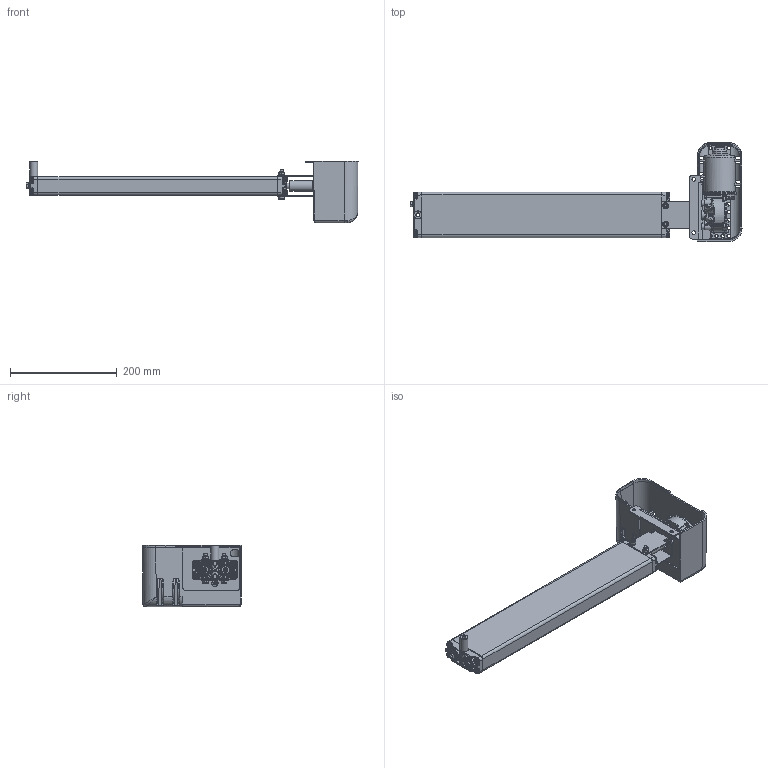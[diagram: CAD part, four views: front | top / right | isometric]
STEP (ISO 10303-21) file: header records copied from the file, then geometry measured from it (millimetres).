
FILE_DESCRIPTION(/* description */ ('Unknown'),/* implementation_level */ '2;1');
FILE_NAME(/* name */ '3X0.20023 Pumpe PA 1830 W mit Antrieb',/* time_stamp */ '2016-08-10T15:48:28+02:00',/* author */ ('Unknown'),/* organization */ ('Unknown'),/* preprocessor_version */ 'ST-DEVELOPER v16.7',/* originating_system */ 'DEX',/* authorisation */ $);
FILE_SCHEMA (('AUTOMOTIVE_DESIGN {1 0 10303 214 3 1 1}'));
Products named in the file (30): 100.20023; 115.00033; 125.00045; 115.00008; 142.00021; 125.00021; 142.00013; 125.00143; 122.00040; 126.00002; 119.00023; 126.00001; 127.00202; 127.00200; 127.00029; 124.00090; Getriebe; Ring; Schraube; Stator; Abdeckplatte; Antriebswelle; 128.00051; 123.00030; 142.00018; 142.00019; 142.00036; 142.00131; 123.00029; 142.00057
Assembly tree (42 placements, depth 3):
  100.20023
    115.00033
      125.00045
      115.00008
      142.00021
      125.00021
    142.00013  x8
    125.00143
    122.00040
    126.00002
    119.00023
    126.00001
    127.00202
      127.00200
      127.00029
    124.00090
      Getriebe
      Ring
      Schraube
      Stator
      Abdeckplatte
      Antriebswelle
    128.00051
    123.00030
    142.00018  x2
    142.00019  x2
    142.00036  x2
    142.00131  x3
    123.00029
    142.00057
    125.00045
Bounding box: 623.42 x 186.04 x 115.45 mm (x, y, z)
Volume: 928219.7 mm3; surface area: 533964.7 mm2
Topology: 38 solids, 38 shells, 4126 faces, 10433 edges, 6326 vertices
Faces by surface type: plane 1160, bspline 1140, cylinder 1129, cone 417, torus 195, sphere 85
Full cylindrical faces by diameter (mm): 2.5 x4, 3.2 x4, 3.5 x2, 3.9 x5, 4.1 x1, 4.2 x4, 4.4 x5, 4.5 x1, 4.917 x2, 5 x8, 5.5 x5, 6 x6, 6.4 x2, 6.8 x9, 6.917 x4, 7 x1, 8 x4, 8.5 x2, 9 x2, 9.5 x1, 9.8 x8, 10 x8, 10.3 x1, 10.32 x1, 10.4 x1, 11 x5, 14 x2, 14.4 x2, 15 x1, 17 x1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
Entity records: 169163 total; most frequent: CARTESIAN_POINT 89287, ORIENTED_EDGE 16600, DIRECTION 12162, EDGE_CURVE 8300, VERTEX_POINT 5374, AXIS2_PLACEMENT_3D 4821, FACE_BOUND 4048, EDGE_LOOP 4044
